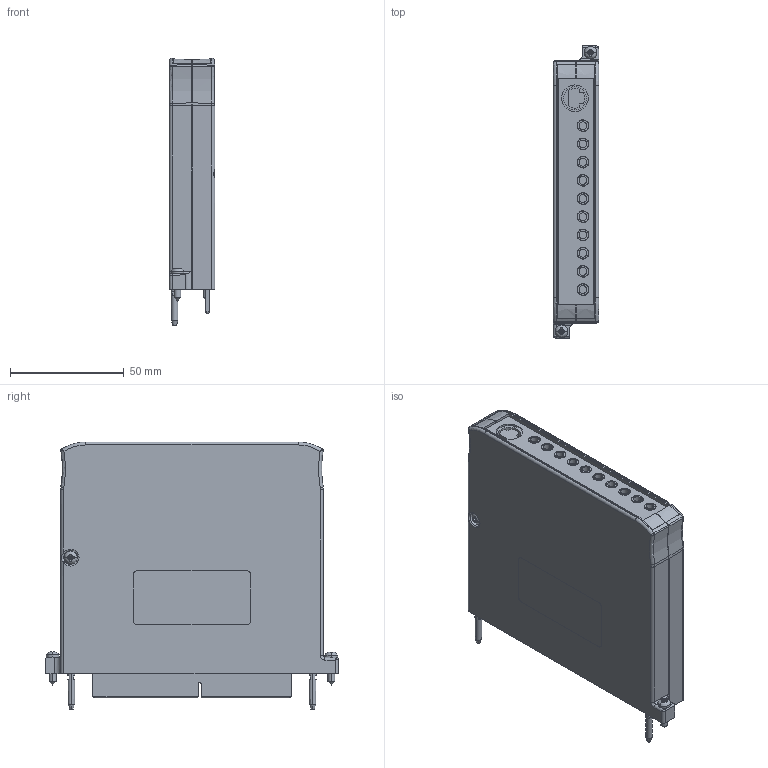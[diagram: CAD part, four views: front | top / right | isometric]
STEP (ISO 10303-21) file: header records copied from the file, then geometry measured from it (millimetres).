
FILE_DESCRIPTION((''),'2;1');
FILE_NAME('CU_NI-FLEXRIO-5781_2','2010-01-13T',('brucep'),(''),'PRO/ENGINEER BY PARAMETRIC TECHNOLOGY CORPORATION, 2006300','PRO/ENGINEER BY PARAMETRIC TECHNOLOGY CORPORATION, 2006300','');
FILE_SCHEMA(('CONFIG_CONTROL_DESIGN'));
Length unit declared in the file: inch
Products named in the file (1): CU_NI-FLEXRIO-5781_2
Bounding box: 20.02 x 128.65 x 117.74 mm (x, y, z)
Volume: 56801.5 mm3; surface area: 103228.5 mm2
Topology: 3 solids, 3 shells, 1345 faces, 3488 edges, 2128 vertices
Faces by surface type: plane 775, cylinder 278, cone 116, bspline 98, sphere 40, torus 38
Entity records: 47096 total; most frequent: CARTESIAN_POINT 14542, ORIENTED_EDGE 6904, DIRECTION 6483, EDGE_CURVE 3452, VERTEX_POINT 2280, AXIS2_PLACEMENT_3D 2180, VECTOR 2123, LINE 2123
